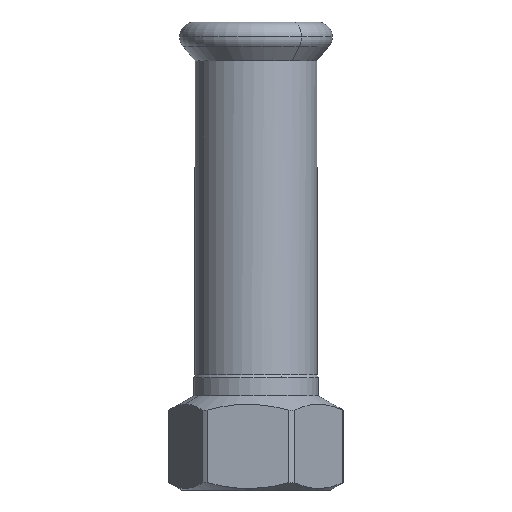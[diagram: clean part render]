
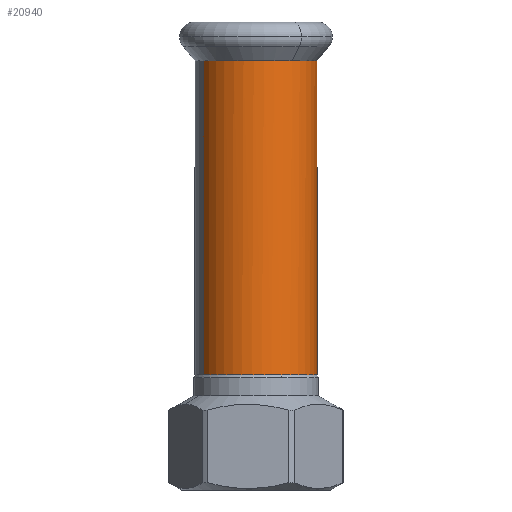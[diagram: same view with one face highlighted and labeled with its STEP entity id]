
A CAD part, left-side view. The second image highlights one B-rep face of the part: STEP entity #20940.
In plain terms, the highlighted cylindrical face has radius 12.65 mm (diameter 25.3 mm), a partial arc.
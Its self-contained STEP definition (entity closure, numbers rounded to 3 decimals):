
#450=CARTESIAN_POINT('',(49.067,47.456,40.289));
#460=DIRECTION('',(0.,0.,-1.));
#470=DIRECTION('',(-0.5,0.866,0.));
#480=AXIS2_PLACEMENT_3D('',#450,#460,#470);
#490=CYLINDRICAL_SURFACE('',#480,12.65);
#500=CARTESIAN_POINT('',(49.067,47.456,
74.319));
#510=DIRECTION('',(0.,0.,1.));
#520=DIRECTION('',(0.805,0.593,
0.));
#530=AXIS2_PLACEMENT_3D('',#500,#510,#520);
#540=CIRCLE('',#530,12.65);
#570=CARTESIAN_POINT('',(42.742,58.412,74.319));
#580=VERTEX_POINT('',#570);
#610=CARTESIAN_POINT('',(42.742,58.412,40.289));
#620=DIRECTION('',(0.,0.,-1.));
#630=VECTOR('',#620,1.);
#640=LINE('',#610,#630);
#650=CARTESIAN_POINT('',(42.742,58.412,9.275));
#660=VERTEX_POINT('',#650);
#670=EDGE_CURVE('',#580,#660,#640,.T.);
#690=CARTESIAN_POINT('',(49.067,47.456,9.275));
#700=DIRECTION('',(0.,0.,-1.));
#710=DIRECTION('',(-0.912,-0.409,0.));
#720=AXIS2_PLACEMENT_3D('',#690,#700,#710);
#730=CIRCLE('',#720,12.65);
#780=CARTESIAN_POINT('',(55.392,36.501,9.275));
#790=VERTEX_POINT('',#780);
#820=CARTESIAN_POINT('',(55.392,36.501,40.289));
#830=DIRECTION('',(0.,0.,-1.));
#840=VECTOR('',#830,1.);
#850=LINE('',#820,#840);
#860=CARTESIAN_POINT('',(55.392,36.501,74.319));
#870=VERTEX_POINT('',#860);
#880=EDGE_CURVE('',#870,#790,#850,.T.);
#1720=CARTESIAN_POINT('',(38.886,39.949,
74.319));
#1730=VERTEX_POINT('',#1720);
#1740=EDGE_CURVE('',#1730,#870,#540,.T.);
#19000=CARTESIAN_POINT('',(37.527,42.276,
9.275));
#19010=VERTEX_POINT('',#19000);
#19040=EDGE_CURVE('',#790,#19010,#730,.T.);
#20840=EDGE_CURVE('',#19010,#660,#730,.T.);
#20850=ORIENTED_EDGE('',*,*,#20840,.F.);
#20860=ORIENTED_EDGE('',*,*,#670,.T.);
#20870=EDGE_CURVE('',#580,#1730,#540,.T.);
#20880=ORIENTED_EDGE('',*,*,#20870,.F.);
#20890=ORIENTED_EDGE('',*,*,#1740,.F.);
#20900=ORIENTED_EDGE('',*,*,#880,.F.);
#20910=ORIENTED_EDGE('',*,*,#19040,.F.);
#20920=EDGE_LOOP('',(#20910,#20900,#20890,#20880,#20860,#20850));
#20930=FACE_OUTER_BOUND('',#20920,.T.);
#20940=ADVANCED_FACE('',(#20930),#490,.T.);
